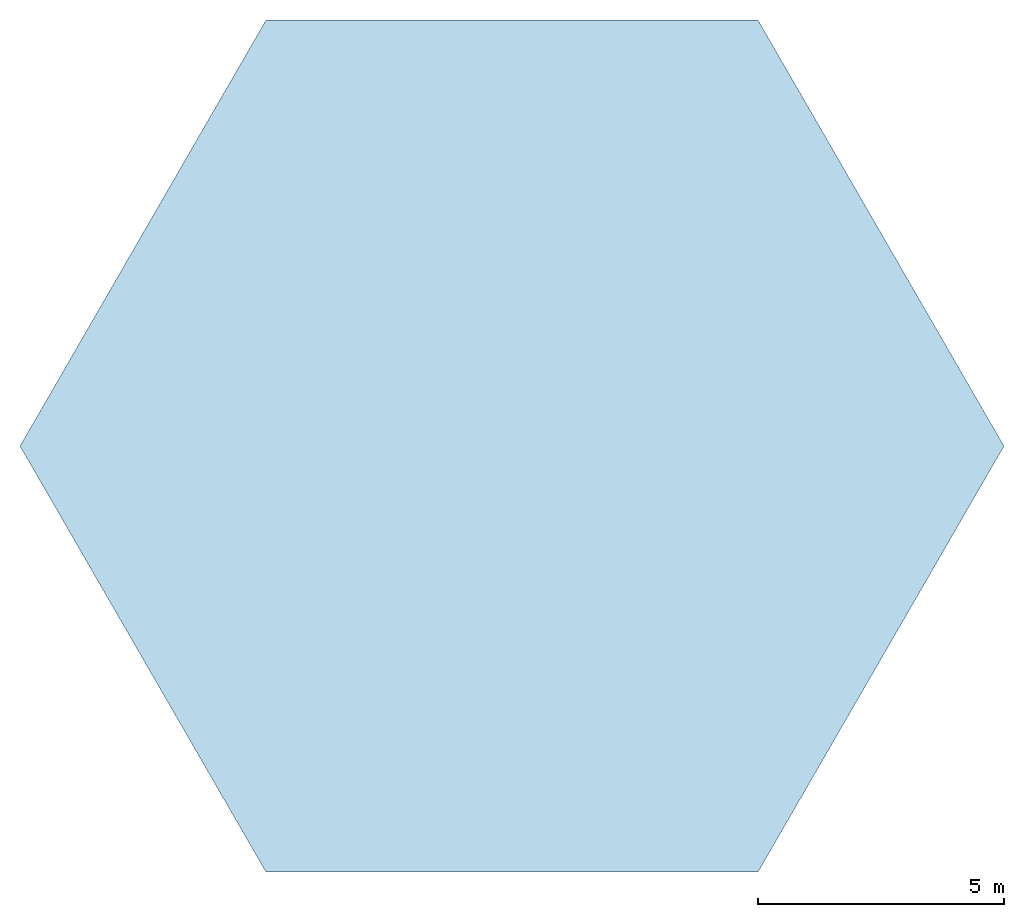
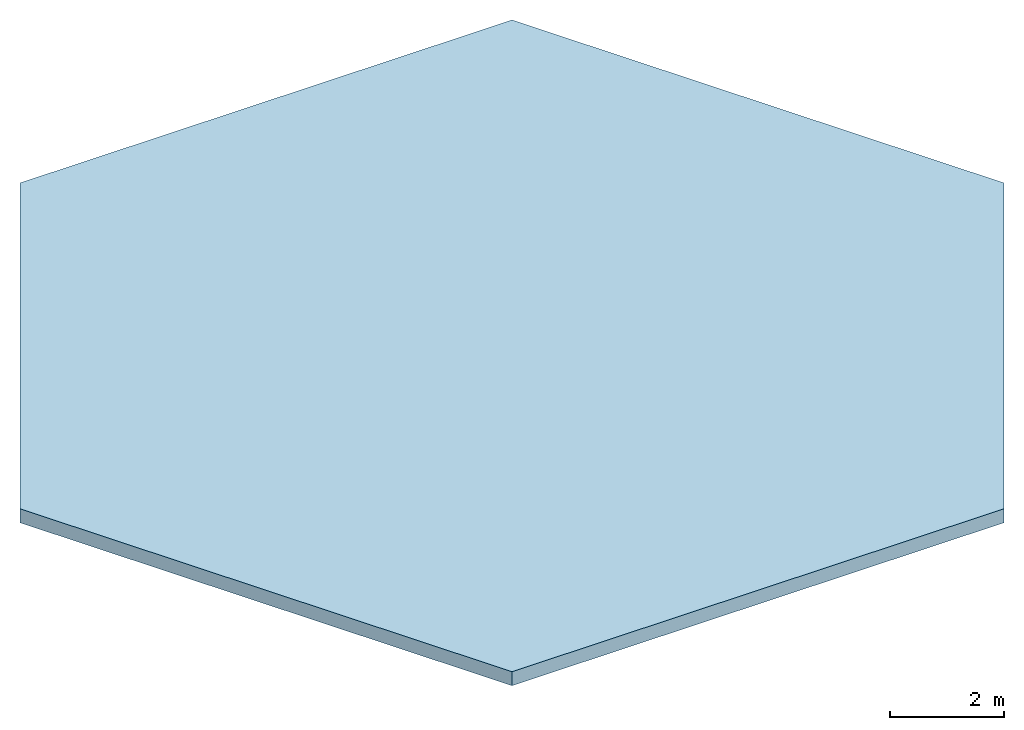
# Not in any storey: 1 slab.
"""IFC4X3_ADD2 building model written with IfcOpenShell, lengths in metres."""

from ifc_helpers import new_model, si_unit, direction, origin_with_axes, place, context, subcontext, project, spatial, triangles, element, save


model = new_model("IFC4X3_ADD2")

# Units and contexts
model_context = context("Model", 3, precision=1e-08, world=origin_with_axes(), true_north=direction((0.0, 1.0)))
body_context = subcontext(model_context, "Body", "Model", "MODEL_VIEW")
ifc_project = project(units=[si_unit("LENGTHUNIT", "METRE"), si_unit("AREAUNIT", "SQUARE_METRE"), si_unit("VOLUMEUNIT", "CUBIC_METRE"), si_unit("PLANEANGLEUNIT", "RADIAN"), si_unit("TIMEUNIT", "SECOND")], contexts=[model_context])

# Building
building_placement = place(None, origin_with_axes())
building = spatial("IfcBuilding", under=ifc_project, at=building_placement, Name="Grasshopper Building", CompositionType="ELEMENT")

# Slab
slab_placement = place(building_placement, origin_with_axes())
element("IfcSlab", 1, at=slab_placement, inside=building, Name="Slab 1", PredefinedType="FLOOR", context=body_context, shape_type="Tessellation", body=[
    triangles([(-5.0, -8.66025352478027, 0.0), (5.0, -8.66025352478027, 0.0), (5.0, 8.66025352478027, 0.0), (-5.0, 8.66025352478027, 0.0), (10.0, 0.0, 0.0), (-10.0, 1.22e-15, 0.0), (10.0, 0.0, -0.300000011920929), (5.0, 8.66025352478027, -0.300000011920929), (5.0, -8.66025352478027, -0.300000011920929), (-5.0, -8.66025352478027, -0.300000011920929), (-10.0, 1.22e-15, -0.300000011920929), (-5.0, 8.66025352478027, -0.300000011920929)], [[5, 4, 6], [1, 5, 6], [4, 5, 3], [2, 5, 1], [3, 5, 7], [5, 2, 9], [2, 1, 10], [1, 6, 11], [6, 4, 12], [4, 3, 8], [7, 11, 12], [10, 11, 7], [12, 8, 7], [9, 10, 7], [3, 7, 8], [5, 9, 7], [2, 10, 9], [1, 11, 10], [6, 12, 11], [4, 8, 12]], closed=True),
])

save(model, "model.ifc")
